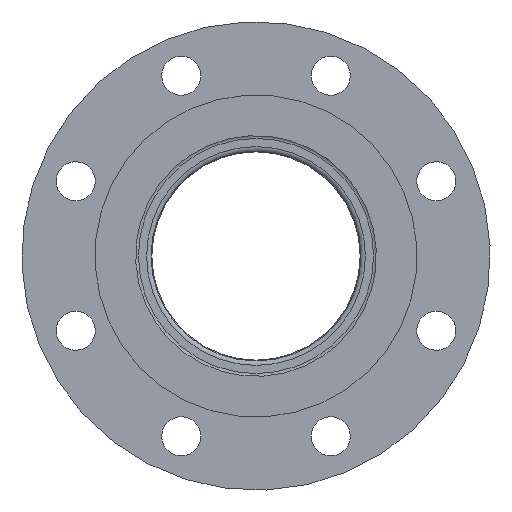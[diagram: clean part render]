
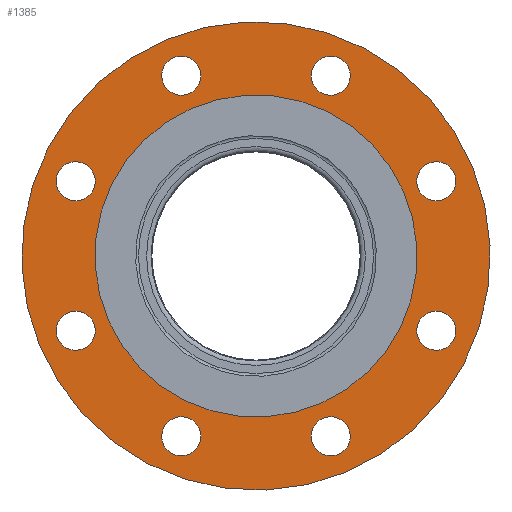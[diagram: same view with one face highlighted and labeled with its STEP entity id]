
A CAD part, front view. The second image highlights one B-rep face of the part: STEP entity #1385.
In plain terms, the highlighted planar face has unit normal (0, -1, 0) as drawn and (0, 0, -1) by its records, which use the part's own axes.
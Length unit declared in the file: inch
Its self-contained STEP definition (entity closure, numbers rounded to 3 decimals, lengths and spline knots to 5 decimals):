
#1246=CARTESIAN_POINT('',(2.84375,0.,0.0));
#1247=VERTEX_POINT('',#1246);
#1248=CARTESIAN_POINT('',(0.0,0.0,0.0));
#1249=DIRECTION('',(0.0,0.0,-1.0));
#1250=DIRECTION('',(-1.0,0.0,0.0));
#1251=AXIS2_PLACEMENT_3D('',#1248,#1249,#1250);
#1252=CIRCLE('',#1251,2.84375);
#1253=EDGE_CURVE('',#1247,#1247,#1252,.T.);
#1278=CARTESIAN_POINT('',(0.0,0.0,0.0));
#1279=DIRECTION('',(0.0,0.0,-1.0));
#1280=DIRECTION('',(-1.0,0.0,0.0));
#1281=AXIS2_PLACEMENT_3D('',#1278,#1279,#1280);
#1282=PLANE('',#1281);
#1283=CARTESIAN_POINT('',(4.5,0.,0.0));
#1284=VERTEX_POINT('',#1283);
#1285=CARTESIAN_POINT('',(0.0,0.0,0.0));
#1286=DIRECTION('',(0.0,0.0,-1.0));
#1287=DIRECTION('',(-1.0,0.0,0.0));
#1288=AXIS2_PLACEMENT_3D('',#1285,#1286,#1287);
#1289=CIRCLE('',#1288,4.5);
#1290=EDGE_CURVE('',#1284,#1284,#1289,.T.);
#1291=ORIENTED_EDGE('',*,*,#1290,.T.);
#1292=EDGE_LOOP('',(#1291));
#1293=FACE_OUTER_BOUND('',#1292,.T.);
#1294=CARTESIAN_POINT('',(-0.375,3.75,0.0));
#1295=VERTEX_POINT('',#1294);
#1296=CARTESIAN_POINT('',(0.0,3.75,0.0));
#1297=DIRECTION('',(0.0,0.0,1.0));
#1298=DIRECTION('',(-1.0,0.0,0.0));
#1299=AXIS2_PLACEMENT_3D('',#1296,#1297,#1298);
#1300=CIRCLE('',#1299,0.375);
#1301=EDGE_CURVE('',#1295,#1295,#1300,.T.);
#1302=ORIENTED_EDGE('',*,*,#1301,.T.);
#1303=EDGE_LOOP('',(#1302));
#1304=FACE_BOUND('',#1303,.T.);
#1305=CARTESIAN_POINT('',(-2.91682,2.38649,0.0));
#1306=VERTEX_POINT('',#1305);
#1307=CARTESIAN_POINT('',(-2.65165,2.65165,0.0));
#1308=DIRECTION('',(0.0,0.0,1.0));
#1309=DIRECTION('',(-0.707,-0.707,0.0));
#1310=AXIS2_PLACEMENT_3D('',#1307,#1308,#1309);
#1311=CIRCLE('',#1310,0.375);
#1312=EDGE_CURVE('',#1306,#1306,#1311,.T.);
#1313=ORIENTED_EDGE('',*,*,#1312,.T.);
#1314=EDGE_LOOP('',(#1313));
#1315=FACE_BOUND('',#1314,.T.);
#1316=CARTESIAN_POINT('',(-3.75,-0.375,0.0));
#1317=VERTEX_POINT('',#1316);
#1318=CARTESIAN_POINT('',(-3.75,0.0,0.0));
#1319=DIRECTION('',(0.0,0.0,1.0));
#1320=DIRECTION('',(0.0,-1.0,0.0));
#1321=AXIS2_PLACEMENT_3D('',#1318,#1319,#1320);
#1322=CIRCLE('',#1321,0.375);
#1323=EDGE_CURVE('',#1317,#1317,#1322,.T.);
#1324=ORIENTED_EDGE('',*,*,#1323,.T.);
#1325=EDGE_LOOP('',(#1324));
#1326=FACE_BOUND('',#1325,.T.);
#1327=CARTESIAN_POINT('',(-2.38649,-2.91682,0.0));
#1328=VERTEX_POINT('',#1327);
#1329=CARTESIAN_POINT('',(-2.65165,-2.65165,0.0));
#1330=DIRECTION('',(0.0,0.0,1.0));
#1331=DIRECTION('',(0.707,-0.707,0.0));
#1332=AXIS2_PLACEMENT_3D('',#1329,#1330,#1331);
#1333=CIRCLE('',#1332,0.375);
#1334=EDGE_CURVE('',#1328,#1328,#1333,.T.);
#1335=ORIENTED_EDGE('',*,*,#1334,.T.);
#1336=EDGE_LOOP('',(#1335));
#1337=FACE_BOUND('',#1336,.T.);
#1338=CARTESIAN_POINT('',(0.375,-3.75,0.0));
#1339=VERTEX_POINT('',#1338);
#1340=CARTESIAN_POINT('',(0.,-3.75,0.0));
#1341=DIRECTION('',(0.0,0.0,1.0));
#1342=DIRECTION('',(1.0,0.0,0.0));
#1343=AXIS2_PLACEMENT_3D('',#1340,#1341,#1342);
#1344=CIRCLE('',#1343,0.375);
#1345=EDGE_CURVE('',#1339,#1339,#1344,.T.);
#1346=ORIENTED_EDGE('',*,*,#1345,.T.);
#1347=EDGE_LOOP('',(#1346));
#1348=FACE_BOUND('',#1347,.T.);
#1349=CARTESIAN_POINT('',(2.91682,-2.38649,0.0));
#1350=VERTEX_POINT('',#1349);
#1351=CARTESIAN_POINT('',(2.65165,-2.65165,0.0));
#1352=DIRECTION('',(0.0,0.0,1.0));
#1353=DIRECTION('',(0.707,0.707,0.0));
#1354=AXIS2_PLACEMENT_3D('',#1351,#1352,#1353);
#1355=CIRCLE('',#1354,0.375);
#1356=EDGE_CURVE('',#1350,#1350,#1355,.T.);
#1357=ORIENTED_EDGE('',*,*,#1356,.T.);
#1358=EDGE_LOOP('',(#1357));
#1359=FACE_BOUND('',#1358,.T.);
#1360=CARTESIAN_POINT('',(3.75,0.375,0.0));
#1361=VERTEX_POINT('',#1360);
#1362=CARTESIAN_POINT('',(3.75,0.,0.0));
#1363=DIRECTION('',(0.0,0.0,1.0));
#1364=DIRECTION('',(0.0,1.0,0.0));
#1365=AXIS2_PLACEMENT_3D('',#1362,#1363,#1364);
#1366=CIRCLE('',#1365,0.375);
#1367=EDGE_CURVE('',#1361,#1361,#1366,.T.);
#1368=ORIENTED_EDGE('',*,*,#1367,.T.);
#1369=EDGE_LOOP('',(#1368));
#1370=FACE_BOUND('',#1369,.T.);
#1371=CARTESIAN_POINT('',(2.38649,2.91682,0.0));
#1372=VERTEX_POINT('',#1371);
#1373=CARTESIAN_POINT('',(2.65165,2.65165,0.0));
#1374=DIRECTION('',(0.0,0.0,1.0));
#1375=DIRECTION('',(-0.707,0.707,0.0));
#1376=AXIS2_PLACEMENT_3D('',#1373,#1374,#1375);
#1377=CIRCLE('',#1376,0.375);
#1378=EDGE_CURVE('',#1372,#1372,#1377,.T.);
#1379=ORIENTED_EDGE('',*,*,#1378,.T.);
#1380=EDGE_LOOP('',(#1379));
#1381=FACE_BOUND('',#1380,.T.);
#1382=ORIENTED_EDGE('',*,*,#1253,.F.);
#1383=EDGE_LOOP('',(#1382));
#1384=FACE_BOUND('',#1383,.T.);
#1385=ADVANCED_FACE('',(#1293,#1304,#1315,#1326,#1337,#1348,#1359,#1370,#1381,#1384),#1282,.T.);
